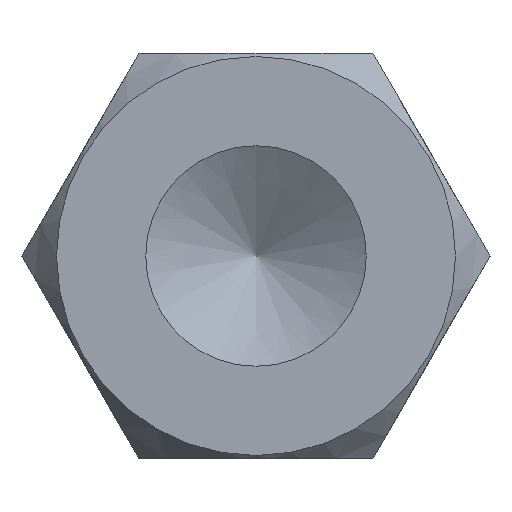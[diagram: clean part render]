
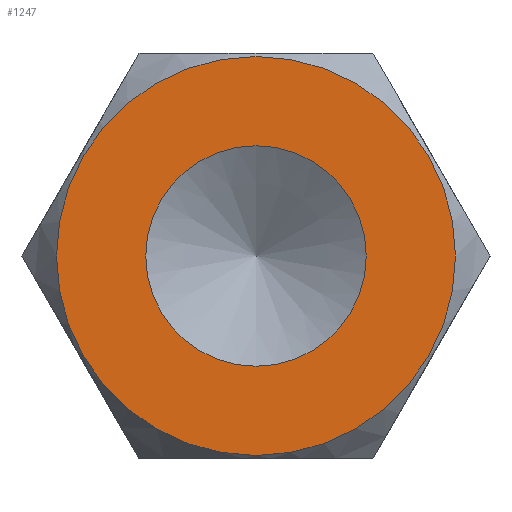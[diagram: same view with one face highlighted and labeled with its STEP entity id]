
A CAD part, front view. The second image highlights one B-rep face of the part: STEP entity #1247.
In plain terms, the highlighted planar face has unit normal (0, -1, 0).
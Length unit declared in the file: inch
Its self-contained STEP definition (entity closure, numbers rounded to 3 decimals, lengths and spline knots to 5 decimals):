
#175 = DIRECTION ( 'NONE',  ( 0., 0., 1. ) ) ;
#176 = DIRECTION ( 'NONE',  ( 0., 1., 0. ) ) ;
#183 = CARTESIAN_POINT ( 'NONE',  ( 0., 0., 0. ) ) ;
#187 = DIRECTION ( 'NONE',  ( 0., 0., -1. ) ) ;
#188 = DIRECTION ( 'NONE',  ( 0., -1., 0. ) ) ;
#209 = CARTESIAN_POINT ( 'NONE',  ( 0., 0., 0. ) ) ;
#523 = EDGE_CURVE ( 'NONE', #753, #753, #1092, .T. ) ;
#527 = EDGE_CURVE ( 'NONE', #745, #745, #1096, .T. ) ;
#572 = AXIS2_PLACEMENT_3D ( 'NONE', #209, #188, #187 ) ;
#576 = AXIS2_PLACEMENT_3D ( 'NONE', #183, #176, #175 ) ;
#595 = AXIS2_PLACEMENT_3D ( 'NONE', #800, #798, #797 ) ;
#744 = CARTESIAN_POINT ( 'NONE',  ( 0., 0., 0.12305 ) ) ;
#745 = VERTEX_POINT ( 'NONE', #744 ) ;
#752 = CARTESIAN_POINT ( 'NONE',  ( 0., 0., -0.068 ) ) ;
#753 = VERTEX_POINT ( 'NONE', #752 ) ;
#797 = DIRECTION ( 'NONE',  ( 0., 0., 1. ) ) ;
#798 = DIRECTION ( 'NONE',  ( 0., 1., 0. ) ) ;
#799 = PLANE ( 'NONE',  #595 ) ;
#800 = CARTESIAN_POINT ( 'NONE',  ( 0.14434, 0., 0. ) ) ;
#923 = EDGE_LOOP ( 'NONE', ( #1030 ) ) ;
#929 = EDGE_LOOP ( 'NONE', ( #1031 ) ) ;
#1030 = ORIENTED_EDGE ( 'NONE', *, *, #523, .F. ) ;
#1031 = ORIENTED_EDGE ( 'NONE', *, *, #527, .F. ) ;
#1092 = CIRCLE ( 'NONE', #572, 0.068 ) ;
#1096 = CIRCLE ( 'NONE', #576, 0.12305 ) ;
#1231 = FACE_BOUND ( 'NONE', #923, .T. ) ;
#1232 = FACE_OUTER_BOUND ( 'NONE', #929, .T. ) ;
#1247 = ADVANCED_FACE ( 'NONE', ( #1231, #1232 ), #799, .F. ) ;
